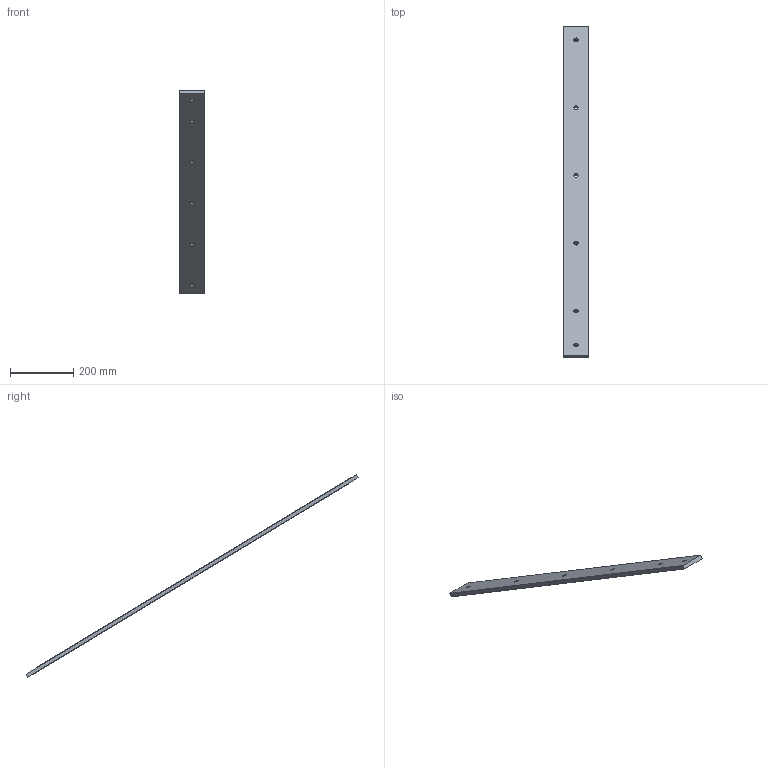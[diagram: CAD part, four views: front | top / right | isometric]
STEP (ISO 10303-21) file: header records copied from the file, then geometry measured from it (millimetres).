
FILE_DESCRIPTION(('Open CASCADE Model'),'2;1');
FILE_NAME('Open CASCADE Shape Model','2026-09-19T12:55:22',('Author'),( 'Open CASCADE'),'Open CASCADE STEP processor 7.9','Open CASCADE 7.9' ,'Unknown');
FILE_SCHEMA(('AUTOMOTIVE_DESIGN { 1 0 10303 214 1 1 1 1 }'));
Length unit declared in the file: millimetre
Products named in the file (1): Open CASCADE STEP translator 7.9 399
Bounding box: 80 x 1046.32 x 638.27 mm (x, y, z)
Volume: 1156843.3 mm3; surface area: 226827.7 mm2
Topology: 1 solids, 1 shells, 12 faces, 30 edges, 20 vertices
Faces by surface type: plane 6, cylinder 6
Full cylindrical faces by diameter (mm): 13 x6
Entity records: 790 total; most frequent: DIRECTION 128, CARTESIAN_POINT 123, LINE 66, VECTOR 66, ORIENTED_EDGE 60, PCURVE 60, DEFINITIONAL_REPRESENTATION 60, EDGE_CURVE 30
